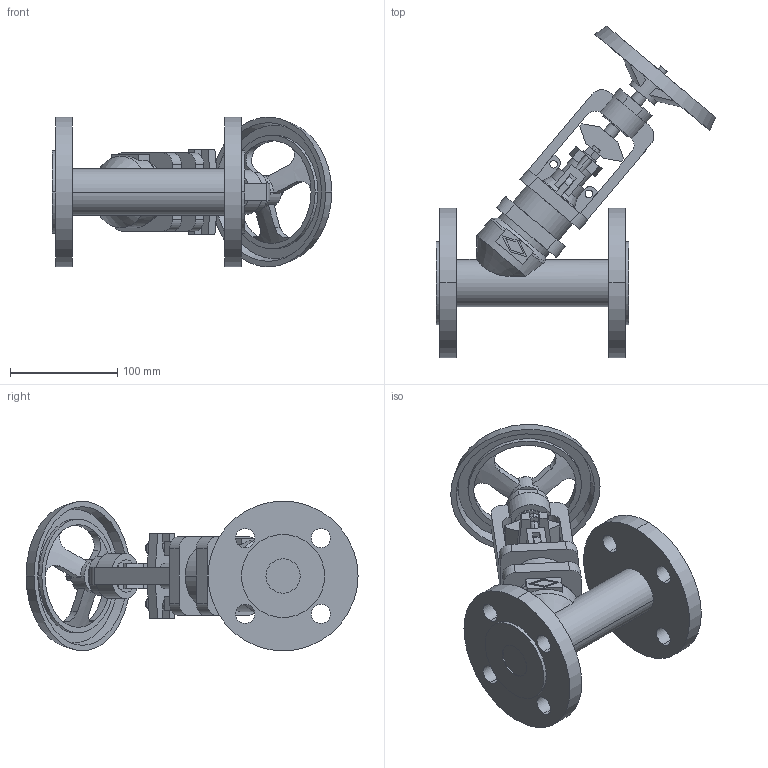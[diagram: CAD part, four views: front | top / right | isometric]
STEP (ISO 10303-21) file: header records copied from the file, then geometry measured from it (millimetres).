
FILE_DESCRIPTION(('OneSpaceDesigner STEP Export'),'2;1');
FILE_NAME('c000004404.stp','2010-05-10T 9:27:57',(''),(''),'OneSpace Designer STEP processor for AP214 (Solid Model)','OneSpace Modeling 15.50B 03-Nov-2007 (C) CoCreate Software GmbH','');
FILE_SCHEMA(('AUTOMOTIVE_DESIGN { 1 0 10303 214 1 1 1 1 }'));
Length unit declared in the file: millimetre
Products named in the file (1): 1
Bounding box: 261.04 x 310.09 x 140 mm (x, y, z)
Volume: 1229632.2 mm3; surface area: 200109.8 mm2
Topology: 1 solids, 1 shells, 288 faces, 752 edges, 493 vertices
Faces by surface type: plane 148, cylinder 107, cone 22, torus 11
Entity records: 11045 total; most frequent: CARTESIAN_POINT 1991, ORIENTED_EDGE 1504, DIRECTION 1250, EDGE_CURVE 752, VERTEX_POINT 493, VECTOR 434, LINE 434, AXIS2_PLACEMENT_3D 408
